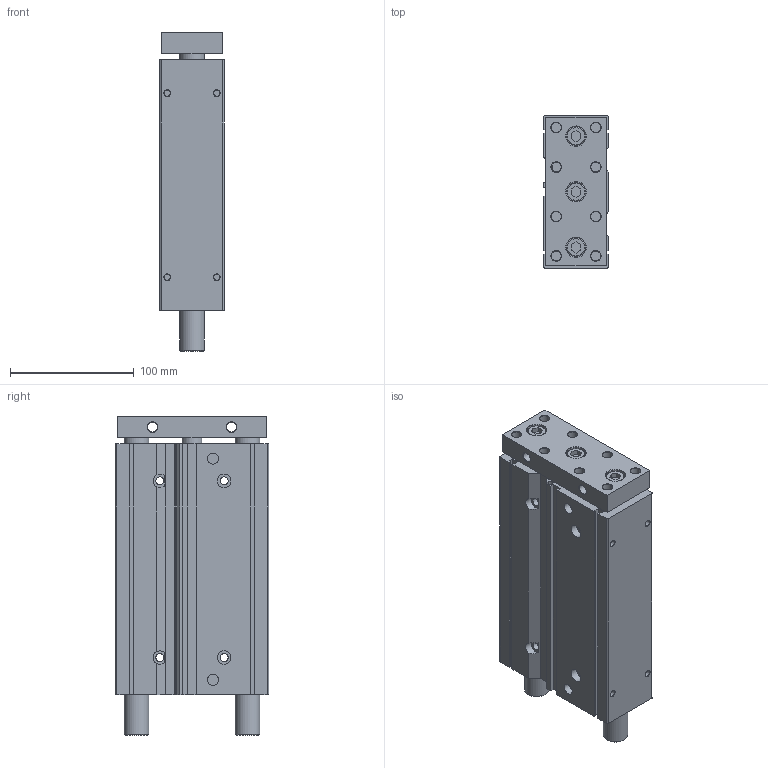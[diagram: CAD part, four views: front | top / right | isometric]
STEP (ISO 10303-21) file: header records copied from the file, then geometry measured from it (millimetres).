
FILE_DESCRIPTION((''),'2;1');
FILE_NAME('I:\3D電子目錄\氣缸\TB(U)\TB(U)40\TB(U)40\TB(U)40x150.stp','2007-08-06T09:07:01',('Administrator'),(''),'Autodesk Inventor 2008','Autodesk Inventor 2008','');
FILE_SCHEMA(('AUTOMOTIVE_DESIGN { 1 0 10303 214 1 1 1 1 }'));
Length unit declared in the file: millimetre
Products named in the file (1): TB(U)40X150
Bounding box: 52 x 124 x 258 mm (x, y, z)
Volume: 1326180.5 mm3; surface area: 138823.1 mm2
Topology: 1 solids, 1 shells, 218 faces, 500 edges, 320 vertices
Faces by surface type: plane 104, cylinder 52, cone 37, bspline 22, torus 3
Full cylindrical faces by diameter (mm): 5 x4, 6 x4, 6.5 x4, 8 x10, 9 x2, 11 x6, 15 x3, 16 x4, 20 x4, 28 x2, 35 x1
Entity records: 5822 total; most frequent: CARTESIAN_POINT 1073, DIRECTION 962, ORIENTED_EDGE 824, EDGE_CURVE 412, EDGE_LOOP 374, AXIS2_PLACEMENT_3D 353, VERTEX_POINT 320, VECTOR 256
